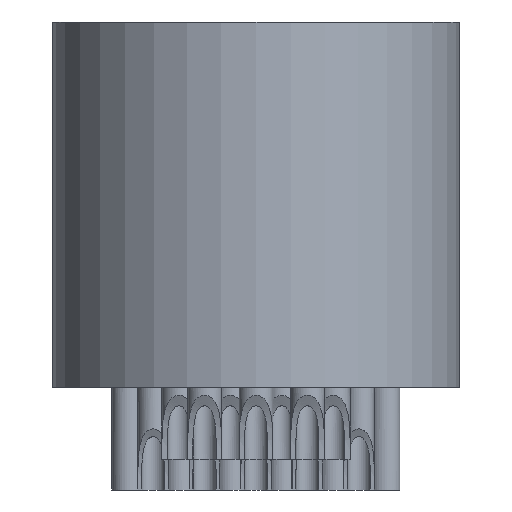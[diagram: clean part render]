
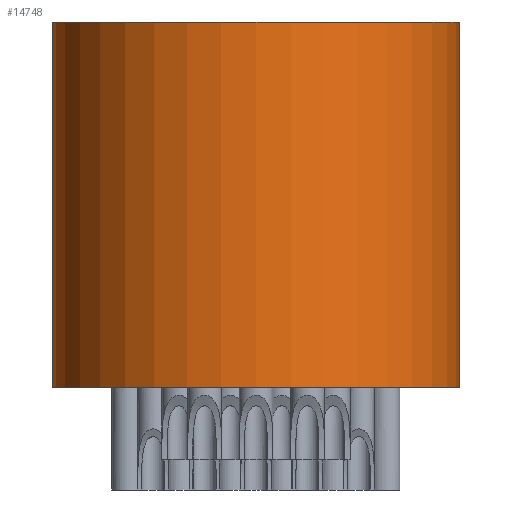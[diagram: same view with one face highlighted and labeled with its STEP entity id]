
A CAD part, front view. The second image highlights one B-rep face of the part: STEP entity #14748.
In plain terms, the highlighted cylindrical face has radius 5.016 mm (diameter 10.033 mm), a partial arc.
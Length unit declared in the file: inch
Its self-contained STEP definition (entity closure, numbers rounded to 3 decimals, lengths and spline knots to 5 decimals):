
#4580 = CIRCLE ( 'NONE', #4839, 0.1975 ) ;
#4834 = CARTESIAN_POINT ( 'NONE',  ( 0., 0., 0. ) ) ;
#4836 = DIRECTION ( 'NONE',  ( 1., 0., 0. ) ) ;
#4839 = AXIS2_PLACEMENT_3D ( 'NONE', #4834, #4848, #4836 ) ;
#4848 = DIRECTION ( 'NONE',  ( 0., 0., 1. ) ) ;
#4966 = CARTESIAN_POINT ( 'NONE',  ( 0.1975, 0., 0. ) ) ;
#5132 = DIRECTION ( 'NONE',  ( -1., 0., 0. ) ) ;
#5133 = DIRECTION ( 'NONE',  ( 0., 0., -1. ) ) ;
#5136 = LINE ( 'NONE', #5190, #5187 ) ;
#5137 = AXIS2_PLACEMENT_3D ( 'NONE', #5146, #5133, #5132 ) ;
#5140 = DIRECTION ( 'NONE',  ( 1., 0., 0. ) ) ;
#5141 = DIRECTION ( 'NONE',  ( 0., 0., 1. ) ) ;
#5142 = AXIS2_PLACEMENT_3D ( 'NONE', #5154, #5141, #5140 ) ;
#5146 = CARTESIAN_POINT ( 'NONE',  ( 0., 0., 0. ) ) ;
#5153 = CIRCLE ( 'NONE', #5142, 0.1975 ) ;
#5154 = CARTESIAN_POINT ( 'NONE',  ( 0., 0., -0.355 ) ) ;
#5155 = CARTESIAN_POINT ( 'NONE',  ( -0.1975, 0., -0.355 ) ) ;
#5156 = DIRECTION ( 'NONE',  ( 0., 0., -1. ) ) ;
#5157 = VECTOR ( 'NONE', #5156, 39.37008 ) ;
#5158 = CARTESIAN_POINT ( 'NONE',  ( -0.1975, 0., 0. ) ) ;
#5159 = LINE ( 'NONE', #5158, #5157 ) ;
#5160 = CYLINDRICAL_SURFACE ( 'NONE', #5137, 0.1975 ) ;
#5162 = CARTESIAN_POINT ( 'NONE',  ( -0.1975, 0., 0. ) ) ;
#5164 = FACE_OUTER_BOUND ( 'NONE', #14750, .T. ) ;
#5186 = DIRECTION ( 'NONE',  ( 0., 0., -1. ) ) ;
#5187 = VECTOR ( 'NONE', #5186, 39.37008 ) ;
#5189 = CARTESIAN_POINT ( 'NONE',  ( 0.1975, 0., -0.355 ) ) ;
#5190 = CARTESIAN_POINT ( 'NONE',  ( 0.1975, 0., 0. ) ) ;
#14683 = VERTEX_POINT ( 'NONE', #4966 ) ;
#14740 = EDGE_CURVE ( 'NONE', #14744, #14683, #4580, .T. ) ;
#14741 = ORIENTED_EDGE ( 'NONE', *, *, #14754, .F. ) ;
#14742 = EDGE_CURVE ( 'NONE', #14744, #14745, #5159, .T. ) ;
#14743 = ORIENTED_EDGE ( 'NONE', *, *, #14742, .T. ) ;
#14744 = VERTEX_POINT ( 'NONE', #5162 ) ;
#14745 = VERTEX_POINT ( 'NONE', #5155 ) ;
#14747 = EDGE_CURVE ( 'NONE', #14745, #14755, #5153, .T. ) ;
#14748 = ADVANCED_FACE ( 'NONE', ( #5164 ), #5160, .T. ) ;
#14749 = ORIENTED_EDGE ( 'NONE', *, *, #14740, .F. ) ;
#14750 = EDGE_LOOP ( 'NONE', ( #14741, #14749, #14743, #14751 ) ) ;
#14751 = ORIENTED_EDGE ( 'NONE', *, *, #14747, .T. ) ;
#14754 = EDGE_CURVE ( 'NONE', #14683, #14755, #5136, .T. ) ;
#14755 = VERTEX_POINT ( 'NONE', #5189 ) ;
